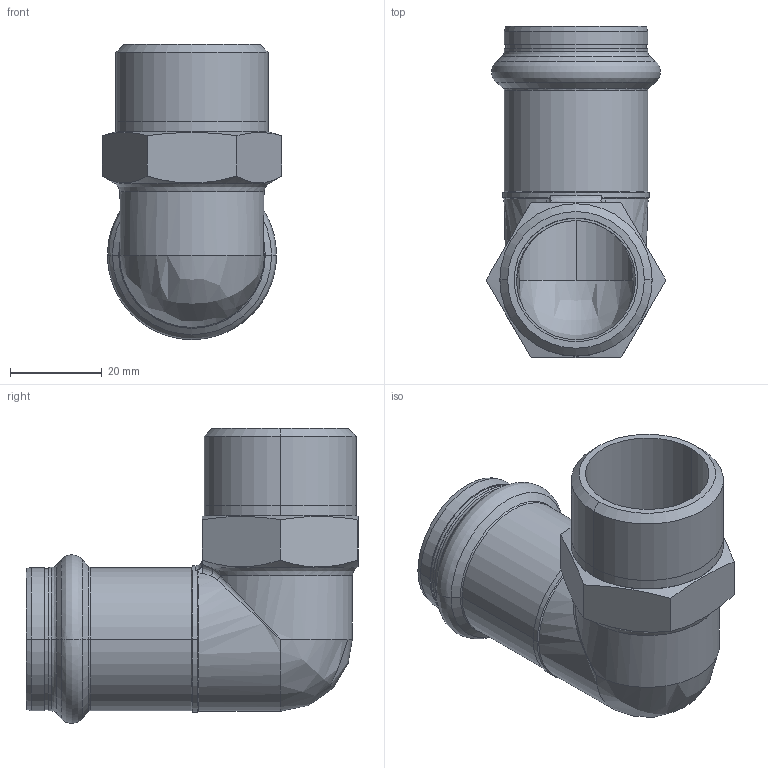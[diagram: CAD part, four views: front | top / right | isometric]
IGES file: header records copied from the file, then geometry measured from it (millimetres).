
Start section: Elysium IGES Interface
Global section: file name: F:\3d modellen sudo\S-Pr VP\SP6092GV\6092GVW281.igs; native system: CoCreate Modeling 17.00A  17-Jun-2010; preprocessor: CoCreate IGES_3D V2.2; author: Unknown; organization: Unknown; date: 20130124.151955; units: millimetre
Bounding box: 39.26 x 72.5 x 64.44 mm (x, y, z)
Volume: 26270.8 mm3; surface area: 19726.1 mm2
Topology: 1 solids, 1 shells, 87 faces, 206 edges, 119 vertices
Faces by surface type: bspline 87
